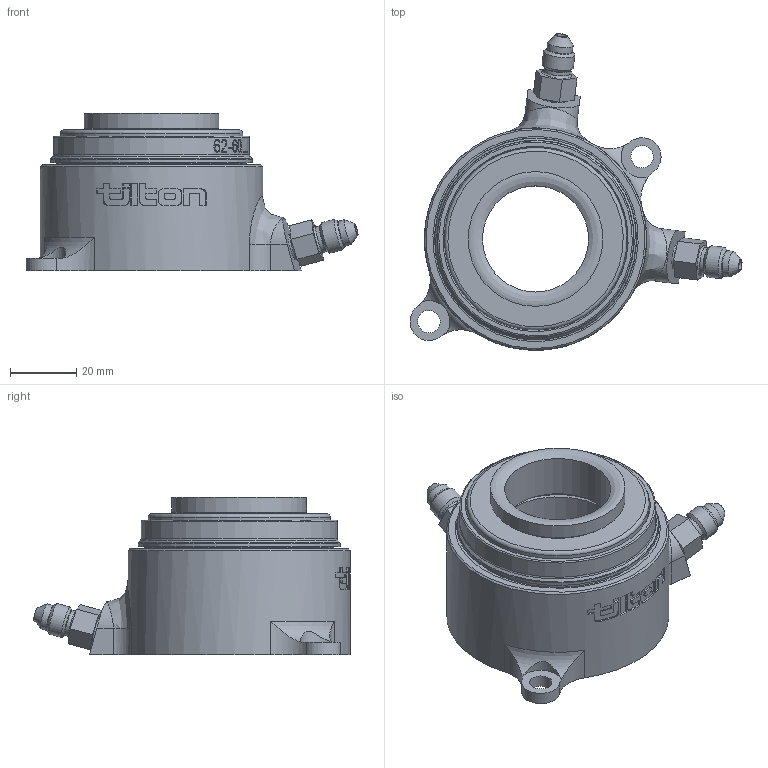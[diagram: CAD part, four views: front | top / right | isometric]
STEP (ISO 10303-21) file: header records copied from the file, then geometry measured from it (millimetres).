
FILE_DESCRIPTION(/* description */ ('Unknown'),/* implementation_level */ '2;1');
FILE_NAME(/* name */ '60-8300, SIMPLIFIED',/* time_stamp */ '2017-12-21T11:08:25-08:00',/* author */ ('Unknown'),/* organization */ ('Unknown'),/* preprocessor_version */ 'ST-DEVELOPER v16.7',/* originating_system */ 'DEX',/* authorisation */ $);
FILE_SCHEMA (('AUTOMOTIVE_DESIGN {1 0 10303 214 3 1 1}'));
Length unit declared in the file: millimetre
Products named in the file (1): 60-8300, SIMPLIFIED
Bounding box: 100.12 x 95.48 x 47.65 mm (x, y, z)
Volume: 103858.4 mm3; surface area: 30320.2 mm2
Topology: 2 solids, 3 shells, 203 faces, 591 edges, 491 vertices
Faces by surface type: plane 89, cylinder 56, torus 23, bspline 19, cone 16
Full cylindrical faces by diameter (mm): 3.175 x2, 6.756 x2, 7.734 x2, 7.925 x4, 9.525 x2, 32.004 x1, 35.001 x2, 38.1 x1, 40.64 x1, 54.991 x1, 54.997 x1, 57.061 x1, 59.182 x1, 60.96 x1, 61.925 x1, 67.056 x1
Entity records: 8942 total; most frequent: CARTESIAN_POINT 2767, ORIENTED_EDGE 860, DIRECTION 851, EDGE_CURVE 430, AXIS2_PLACEMENT_3D 341, VERTEX_POINT 325, EDGE_LOOP 305, FACE_BOUND 305
